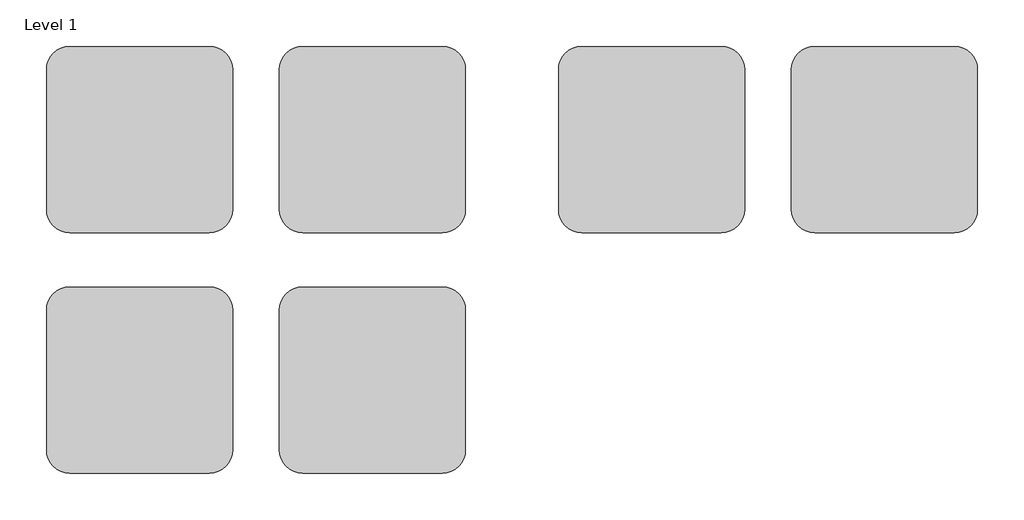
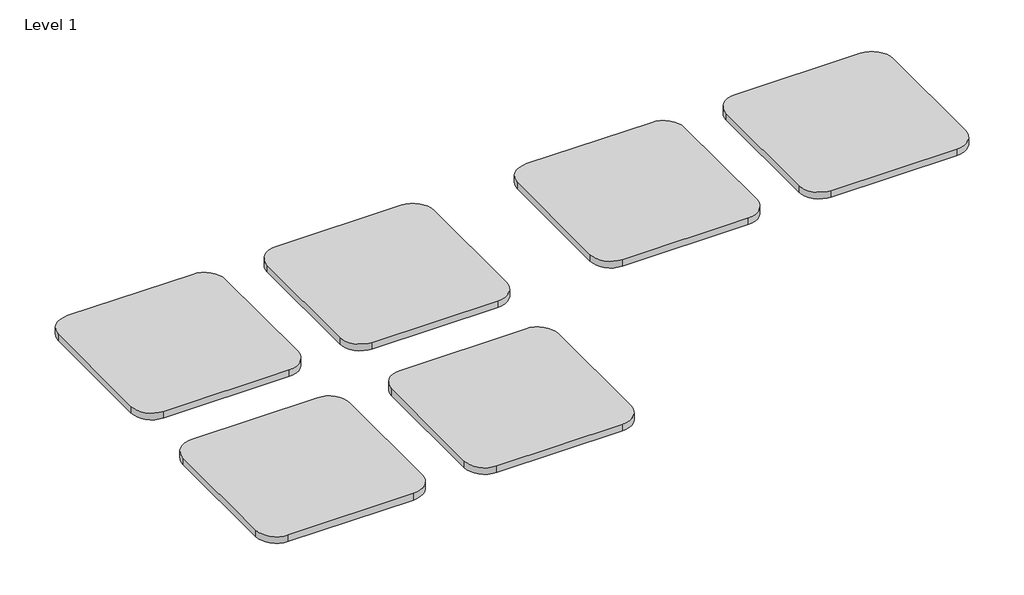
# One storey: 6 proxies.
"""IFC4 building model written with IfcOpenShell, lengths in millimetres."""

from ifc_helpers import new_model, si_unit, origin, place, context, project, spatial, transform, mapped, element, save
from components import materialsample_type_1_9638d12c

model = new_model("IFC4")

# Units and contexts
model_context = context("Model", 3, world=origin())
ifc_project = project(units=[si_unit("LENGTHUNIT", "METRE", prefix="MILLI")], contexts=[model_context])

# Site, building, storey
site = spatial("IfcSite", under=ifc_project)
building = spatial("IfcBuilding", under=site)
storey = spatial("IfcBuildingStorey", under=building, Name="Level 1", Elevation=0.0)

# Proxies
placement = place(None, origin())
materialsample_type_1_shape = materialsample_type_1_9638d12c(model_context)
element("IfcBuildingElementProxy", 1, Name="MaterialSample : Type 1", ObjectType="MaterialSample : Type 1", at=placement, inside=storey, context=model_context, shape_type="MappedRepresentation", body=[
    mapped(materialsample_type_1_shape, transform((361.8200395, 1862.0494715, 0.0), x_axis=(1.0, 0.0, 0.0), y_axis=(0.0, 1.0, 0.0), z_axis=(0.0, 0.0, 1.0))),
])
element("IfcBuildingElementProxy", 2, Name="MaterialSample : Type 1", ObjectType="MaterialSample : Type 1", at=placement, inside=storey, context=model_context, shape_type="MappedRepresentation", body=[
    mapped(materialsample_type_1_shape, transform((1123.8200395, 1862.0494715, 0.0), x_axis=(1.0, 0.0, 0.0), y_axis=(0.0, 1.0, 0.0), z_axis=(0.0, 0.0, 1.0))),
])
element("IfcBuildingElementProxy", 3, Name="MaterialSample : Type 1", ObjectType="MaterialSample : Type 1", at=placement, inside=storey, context=model_context, shape_type="MappedRepresentation", body=[
    mapped(materialsample_type_1_shape, transform((361.8200395, 1074.6494715, 0.0), x_axis=(1.0, 0.0, 0.0), y_axis=(0.0, 1.0, 0.0), z_axis=(0.0, 0.0, 1.0))),
])
element("IfcBuildingElementProxy", 4, Name="MaterialSample : Type 1", ObjectType="MaterialSample : Type 1", at=placement, inside=storey, context=model_context, shape_type="MappedRepresentation", body=[
    mapped(materialsample_type_1_shape, transform((1123.8200395, 1074.6494715, 0.0), x_axis=(1.0, 0.0, 0.0), y_axis=(0.0, 1.0, 0.0), z_axis=(0.0, 0.0, 1.0))),
])
element("IfcBuildingElementProxy", 5, Name="MaterialSample : Type 1", ObjectType="MaterialSample : Type 1", at=placement, inside=storey, context=model_context, shape_type="MappedRepresentation", body=[
    mapped(materialsample_type_1_shape, transform((2038.2200395, 1862.0494715, 0.0), x_axis=(1.0, 0.0, 0.0), y_axis=(0.0, 1.0, 0.0), z_axis=(0.0, 0.0, 1.0))),
])
element("IfcBuildingElementProxy", 6, Name="MaterialSample : Type 1", ObjectType="MaterialSample : Type 1", at=placement, inside=storey, context=model_context, shape_type="MappedRepresentation", body=[
    mapped(materialsample_type_1_shape, transform((2800.2200395, 1862.0494715, 0.0), x_axis=(1.0, 0.0, 0.0), y_axis=(0.0, 1.0, 0.0), z_axis=(0.0, 0.0, 1.0))),
])

save(model, "model.ifc")
